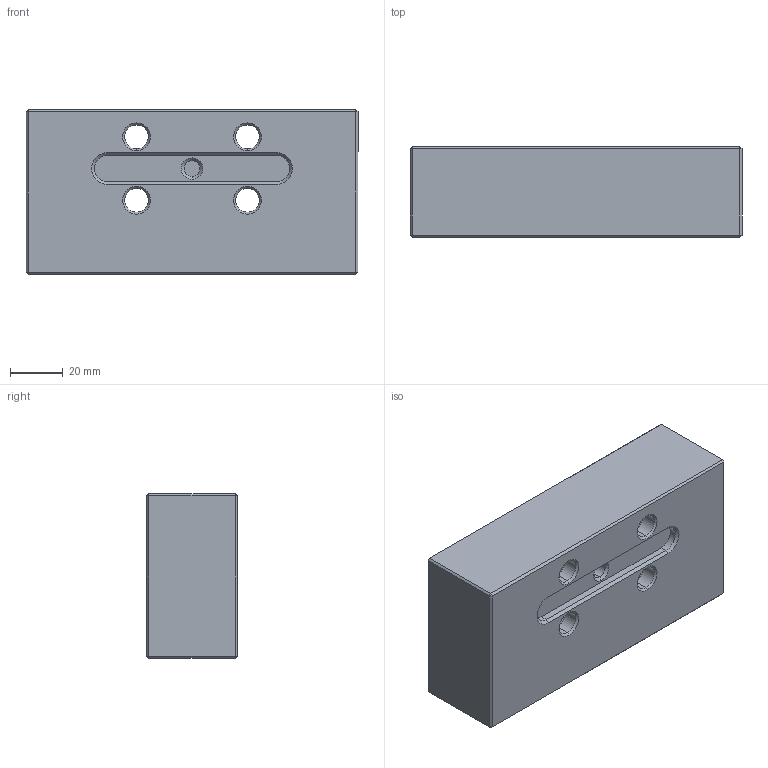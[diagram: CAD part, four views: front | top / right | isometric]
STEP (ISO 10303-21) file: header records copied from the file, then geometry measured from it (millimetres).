
FILE_DESCRIPTION (( 'STEP AP214' ), '1' );
FILE_NAME ('D_VAJ52X-1.STEP', '2020-06-15T21:56:34', ( '' ), ( '' ), 'SwSTEP 2.0', 'SolidWorks 2018', '' );
FILE_SCHEMA (( 'AUTOMOTIVE_DESIGN' ));
Length unit declared in the file: inch
Products named in the file (1): D_VAJ52X-1
Bounding box: 125.73 x 34.29 x 62.23 mm (x, y, z)
Volume: 246270.7 mm3; surface area: 33729.9 mm2
Topology: 1 solids, 1 shells, 76 faces, 158 edges, 90 vertices
Faces by surface type: plane 36, cone 20, cylinder 20
Entity records: 2030 total; most frequent: DIRECTION 372, CARTESIAN_POINT 325, ORIENTED_EDGE 316, EDGE_CURVE 158, AXIS2_PLACEMENT_3D 137, LINE 98, VECTOR 98, EDGE_LOOP 90
